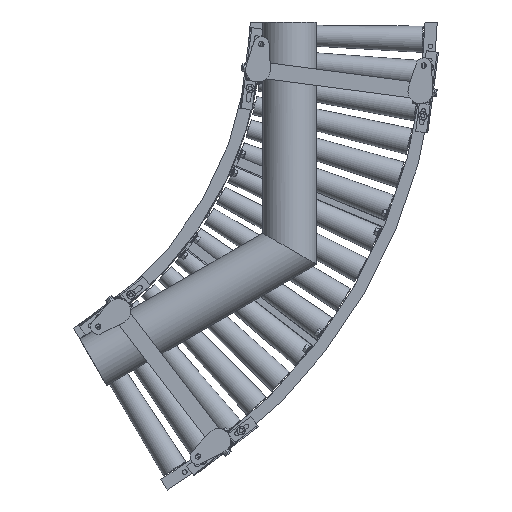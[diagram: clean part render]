
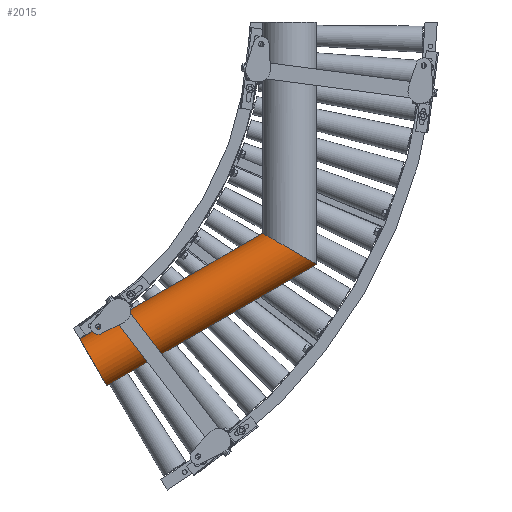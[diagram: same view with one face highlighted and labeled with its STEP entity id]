
A CAD part, front view. The second image highlights one B-rep face of the part: STEP entity #2015.
In plain terms, the highlighted cylindrical face has radius 67.024 mm (diameter 134.048 mm), a partial arc.
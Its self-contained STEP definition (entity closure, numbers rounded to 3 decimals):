
#2015=ADVANCED_FACE('',(#10366),#10365,.T.);
#10365=CYLINDRICAL_SURFACE('',#29703,67.024);
#10366=FACE_OUTER_BOUND('',#29704,.T.);
#29700=CARTESIAN_POINT('',(1000.15,-156.676,-539.159));
#29701=DIRECTION('',(0.866,0.,0.5));
#29702=DIRECTION('',(0.5,0.,-0.866));
#29703=AXIS2_PLACEMENT_3D('',#29700,#29701,#29702);
#29704=EDGE_LOOP('',(#41392,#41393,#41394,#41395));
#41392=ORIENTED_EDGE('',*,*,#50638,.T.);
#41393=ORIENTED_EDGE('',*,*,#50641,.T.);
#41394=ORIENTED_EDGE('',*,*,#50624,.T.);
#41395=ORIENTED_EDGE('',*,*,#50640,.F.);
#50624=EDGE_CURVE('',#66617,#66618,#66619,.T.);
#50638=EDGE_CURVE('',#66700,#66680,#66713,.T.);
#50640=EDGE_CURVE('',#66700,#66618,#66725,.T.);
#50641=EDGE_CURVE('',#66680,#66617,#66731,.T.);
#66617=VERTEX_POINT('',#100251);
#66618=VERTEX_POINT('',#100252);
#66619=CIRCLE('',#100256,67.024);
#66680=VERTEX_POINT('',#100288);
#66700=VERTEX_POINT('',#100299);
#66713=(BOUNDED_CURVE() B_SPLINE_CURVE(2,(#100307,#100308,#100309,#100310,#100311),.UNSPECIFIED.,.F.,.F.) B_SPLINE_CURVE_WITH_KNOTS((3,2,3),(0.147,1.571,2.994),.UNSPECIFIED.) CURVE() GEOMETRIC_REPRESENTATION_ITEM() RATIONAL_B_SPLINE_CURVE((1.,0.757,1.,0.757,1.)) REPRESENTATION_ITEM('') );
#66725=LINE('',#100315,#100316);
#66731=LINE('',#100318,#100319);
#100251=CARTESIAN_POINT('',(450.35,-166.5,-780.029));
#100252=CARTESIAN_POINT('',(516.65,-166.5,-894.864));
#100253=CARTESIAN_POINT('',(483.5,-156.676,-837.447));
#100254=DIRECTION('',(0.866,0.,0.5));
#100255=DIRECTION('',(-0.5,0.,0.866));
#100256=AXIS2_PLACEMENT_3D('',#100253,#100254,#100255);
#100288=CARTESIAN_POINT('',(900.7,-166.5,-520.019));
#100299=CARTESIAN_POINT('',(1033.3,-166.5,-596.576));
#100307=CARTESIAN_POINT('',(1033.3,-166.5,-596.576));
#100308=CARTESIAN_POINT('',(1024.825,-223.7,-591.683));
#100309=CARTESIAN_POINT('',(967.,-223.7,-558.298));
#100310=CARTESIAN_POINT('',(909.175,-223.7,-524.913));
#100311=CARTESIAN_POINT('',(900.7,-166.5,-520.019));
#100315=CARTESIAN_POINT('',(1033.3,-166.5,-596.576));
#100316=VECTOR('',#100317,596.576);
#100317=DIRECTION('',(-0.866,0.,-0.5));
#100318=CARTESIAN_POINT('',(900.7,-166.5,-520.019));
#100319=VECTOR('',#100320,520.019);
#100320=DIRECTION('',(-0.866,0.,-0.5));
